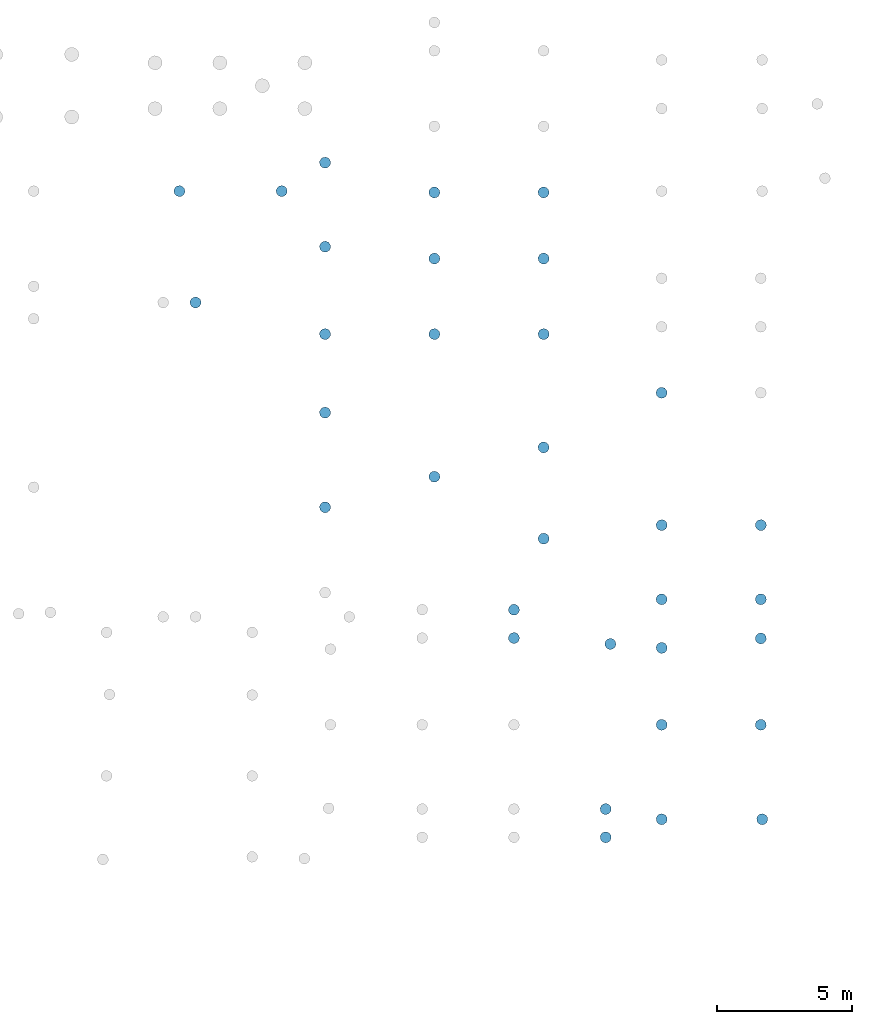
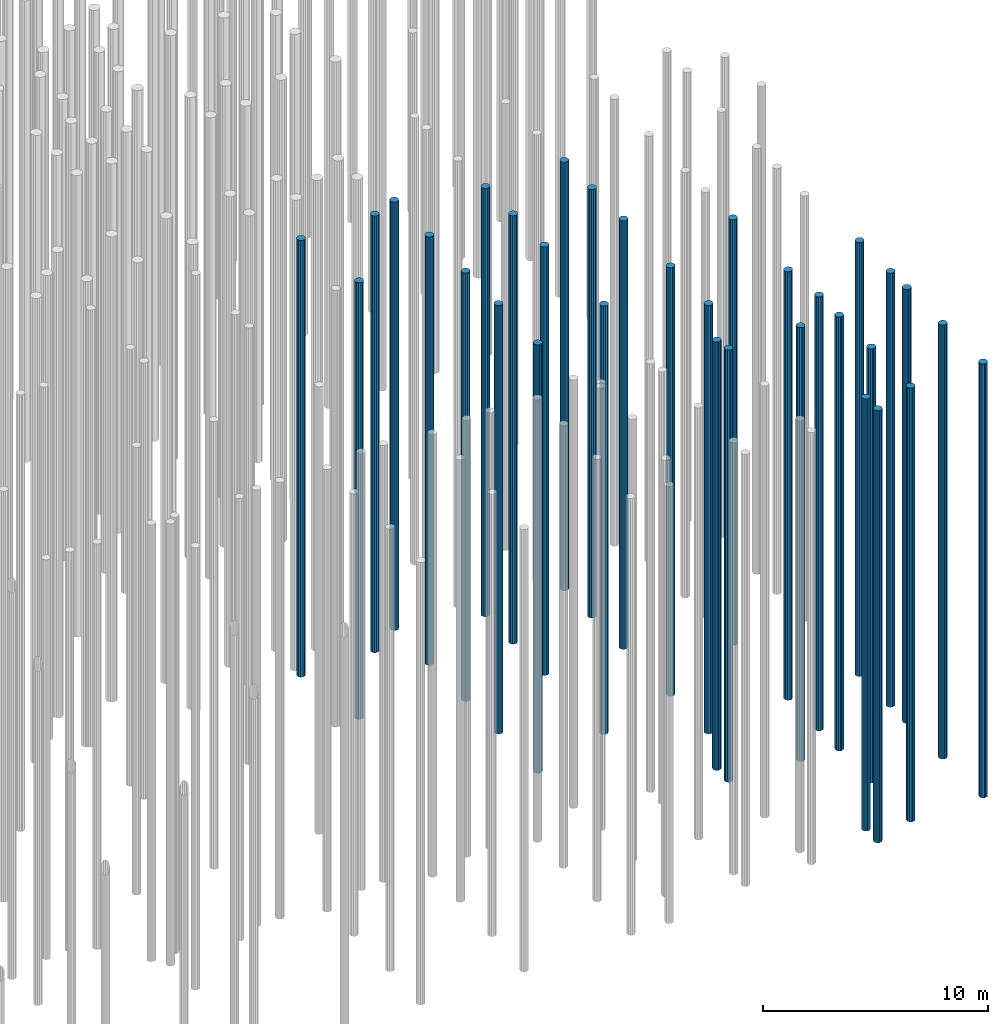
# One storey, part 13 of 20: 33 piles.
"""IFC2X3 building model written with IfcOpenShell, lengths in millimetres."""

from ifc_helpers import new_model, entity, si_unit, converted_unit, derived_unit, direction, frame, origin, place, context, subcontext, project, spatial, polyline, outline, extrude, material, element, save


model = new_model("IFC2X3")

# Units and contexts
model_context = context("Model", 3, precision=0.01, world=origin(), true_north=direction((6.12303176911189e-17, 1.0)))
body_context = subcontext(model_context, "Body", "Model", "MODEL_VIEW")
ifc_project = project(units=[si_unit("LENGTHUNIT", "METRE", prefix="MILLI"), si_unit("AREAUNIT", "SQUARE_METRE"), si_unit("VOLUMEUNIT", "CUBIC_METRE"), converted_unit("PLANEANGLEUNIT", "DEGREE", entity("IfcRatioMeasure", 0.0174532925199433), si_unit("PLANEANGLEUNIT", "RADIAN"), dimensions=[0, 0, 0, 0, 0, 0, 0]), si_unit("MASSUNIT", "GRAM", prefix="KILO"), derived_unit("MASSDENSITYUNIT", [(si_unit("MASSUNIT", "GRAM", prefix="KILO"), 1), (si_unit("LENGTHUNIT", "METRE"), -3)]), si_unit("TIMEUNIT", "SECOND"), si_unit("FREQUENCYUNIT", "HERTZ"), si_unit("THERMODYNAMICTEMPERATUREUNIT", "DEGREE_CELSIUS"), derived_unit("THERMALTRANSMITTANCEUNIT", [(si_unit("MASSUNIT", "GRAM", prefix="KILO"), 1), (si_unit("THERMODYNAMICTEMPERATUREUNIT", "KELVIN"), -1), (si_unit("TIMEUNIT", "SECOND"), -3)]), derived_unit("VOLUMETRICFLOWRATEUNIT", [(si_unit("LENGTHUNIT", "METRE"), 3), (si_unit("TIMEUNIT", "SECOND"), -1)]), si_unit("ELECTRICCURRENTUNIT", "AMPERE"), si_unit("ELECTRICVOLTAGEUNIT", "VOLT"), si_unit("POWERUNIT", "WATT"), si_unit("FORCEUNIT", "NEWTON", prefix="KILO"), si_unit("ILLUMINANCEUNIT", "LUX"), si_unit("LUMINOUSFLUXUNIT", "LUMEN"), si_unit("LUMINOUSINTENSITYUNIT", "CANDELA"), derived_unit("USERDEFINED", [(si_unit("MASSUNIT", "GRAM", prefix="KILO"), -1), (si_unit("LENGTHUNIT", "METRE"), -2), (si_unit("TIMEUNIT", "SECOND"), 3), (si_unit("LUMINOUSFLUXUNIT", "LUMEN"), 1)]), derived_unit("LINEARVELOCITYUNIT", [(si_unit("LENGTHUNIT", "METRE"), 1), (si_unit("TIMEUNIT", "SECOND"), -1)]), si_unit("PRESSUREUNIT", "PASCAL"), derived_unit("USERDEFINED", [(si_unit("LENGTHUNIT", "METRE"), -2), (si_unit("MASSUNIT", "GRAM", prefix="KILO"), 1), (si_unit("TIMEUNIT", "SECOND"), -2)])], contexts=[model_context])

# Site, building, storey
site_placement = place(None, origin())
site = spatial("IfcSite", under=ifc_project, at=site_placement, Name="Default", CompositionType="ELEMENT")
building_placement = place(site_placement, origin())
building = spatial("IfcBuilding", under=site, at=building_placement, Name="niet gebruiken", CompositionType="ELEMENT")
storey_placement = place(building_placement, frame((0.0, 0.0, -4000.0)))
storey = spatial("IfcBuildingStorey", under=building, at=storey_placement, Name="Level t.b.v. palenplan", CompositionType="ELEMENT", Elevation=-4000.0)

# Piles
ifc_material = material(Name="NLRS_f2_beton ihwg")
pile_1_placement = place(storey_placement, origin())
element("IfcPile", 1, at=pile_1_placement, inside=storey, material=ifc_material, Name="NLRS_17.12_SFO_TLB_funderingspaal grondverdringend_gen:Fundex_r410/500", ObjectType="NLRS_17.12_SFO_TLB_funderingspaal grondverdringend_gen:Fundex_r410/500", context=body_context, shape_type="SweptSolid", body=[
    extrude(outline(polyline([(-49.0597111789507, -199.043072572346), (49.0597111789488, -199.043072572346), (135.940144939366, -153.44470337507), (191.678329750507, -72.6940018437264), (203.5053191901, 24.7100194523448), (168.711692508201, 116.453273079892), (95.2682502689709, 181.518485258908), (49.0597111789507, 199.043072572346), (-49.0597111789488, 199.043072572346), (-135.940144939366, 153.44470337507), (-191.678329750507, 72.6940018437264), (-203.5053191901, -24.7100194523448), (-168.711692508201, -116.453273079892), (-95.2682502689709, -181.518485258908), (-49.0597111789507, -199.043072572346)])), frame((97200.0, 24976.0, -21100.0), z_axis=(0.0, 0.0, 1.0), x_axis=(0.239315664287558, -0.970941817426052, 0.0)), (0.0, 0.0, 1.0), 23720.0),
])
pile_2_placement = place(storey_placement, origin())
element("IfcPile", 2, at=pile_2_placement, inside=storey, material=ifc_material, Name="NLRS_17.12_SFO_TLB_funderingspaal grondverdringend_gen:Fundex_r410/500", ObjectType="NLRS_17.12_SFO_TLB_funderingspaal grondverdringend_gen:Fundex_r410/500", context=body_context, shape_type="SweptSolid", body=[
    extrude(outline(polyline([(-49.0597111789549, -199.043072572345), (49.0597111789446, -199.043072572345), (135.940144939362, -153.444703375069), (191.678329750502, -72.6940018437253), (203.505319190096, 24.7100194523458), (168.711692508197, 116.453273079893), (95.2682502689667, 181.518485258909), (49.0597111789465, 199.043072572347), (-49.059711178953, 199.043072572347), (-135.94014493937, 153.444703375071), (-191.678329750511, 72.6940018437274), (-203.505319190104, -24.7100194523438), (-168.711692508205, -116.453273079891), (-95.2682502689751, -181.518485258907), (-49.0597111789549, -199.043072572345)])), frame((97800.0, 20846.0, -21100.0), z_axis=(0.0, 0.0, 1.0), x_axis=(0.239315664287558, -0.970941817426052, 0.0)), (0.0, 0.0, 1.0), 23720.0),
])
pile_3_placement = place(storey_placement, origin())
element("IfcPile", 3, at=pile_3_placement, inside=storey, material=ifc_material, Name="NLRS_17.12_SFO_TLB_funderingspaal grondverdringend_gen:Fundex_r410/500", ObjectType="NLRS_17.12_SFO_TLB_funderingspaal grondverdringend_gen:Fundex_r410/500", context=body_context, shape_type="SweptSolid", body=[
    extrude(outline(polyline([(-49.0597111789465, -199.043072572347), (49.059711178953, -199.043072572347), (135.94014493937, -153.444703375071), (191.678329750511, -72.6940018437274), (203.505319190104, 24.7100194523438), (168.711692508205, 116.453273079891), (95.2682502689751, 181.518485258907), (49.0597111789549, 199.043072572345), (-49.0597111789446, 199.043072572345), (-135.940144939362, 153.444703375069), (-191.678329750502, 72.6940018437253), (-203.505319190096, -24.7100194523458), (-168.711692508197, -116.453273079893), (-95.2682502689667, -181.518485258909), (-49.0597111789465, -199.043072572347)])), frame((100990.0, 24976.0, -21100.0), z_axis=(0.0, 0.0, 1.0), x_axis=(0.239315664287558, -0.970941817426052, 0.0)), (0.0, 0.0, 1.0), 23720.0),
])
pile_4_placement = place(storey_placement, origin())
element("IfcPile", 4, at=pile_4_placement, inside=storey, material=ifc_material, Name="NLRS_17.12_SFO_TLB_funderingspaal grondverdringend_gen:Fundex_r410/500", ObjectType="NLRS_17.12_SFO_TLB_funderingspaal grondverdringend_gen:Fundex_r410/500", context=body_context, shape_type="SweptSolid", body=[
    extrude(outline(polyline([(-49.0597111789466, -199.043072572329), (49.059711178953, -199.043072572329), (135.94014493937, -153.444703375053), (191.678329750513, -72.6940018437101), (203.505319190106, 24.7100194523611), (168.711692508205, 116.453273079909), (95.2682502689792, 181.518485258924), (49.0597111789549, 199.043072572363), (-49.0597111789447, 199.043072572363), (-135.940144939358, 153.444703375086), (-191.678329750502, 72.6940018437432), (-203.505319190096, -24.710019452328), (-168.711692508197, -116.453273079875), (-95.2682502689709, -181.51848525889), (-49.0597111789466, -199.043072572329)])), frame((106650.0, 19676.0, -21100.0), z_axis=(0.0, 0.0, 1.0), x_axis=(0.239315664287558, -0.970941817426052, 0.0)), (0.0, 0.0, 1.0), 23270.0),
])
pile_5_placement = place(storey_placement, origin())
element("IfcPile", 5, at=pile_5_placement, inside=storey, material=ifc_material, Name="NLRS_17.12_SFO_TLB_funderingspaal grondverdringend_gen:Fundex_r410/500", ObjectType="NLRS_17.12_SFO_TLB_funderingspaal grondverdringend_gen:Fundex_r410/500", context=body_context, shape_type="SweptSolid", body=[
    extrude(outline(polyline([(-49.0597111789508, -199.043072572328), (49.0597111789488, -199.043072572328), (135.940144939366, -153.444703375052), (191.678329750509, -72.694001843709), (203.505319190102, 24.7100194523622), (168.711692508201, 116.45327307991), (95.268250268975, 181.518485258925), (49.0597111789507, 199.043072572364), (-49.0597111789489, 199.043072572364), (-135.940144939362, 153.444703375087), (-191.678329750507, 72.6940018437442), (-203.5053191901, -24.7100194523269), (-168.711692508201, -116.453273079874), (-95.2682502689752, -181.518485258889), (-49.0597111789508, -199.043072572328)])), frame((110700.0, 19676.0, -21100.0), z_axis=(0.0, 0.0, 1.0), x_axis=(0.239315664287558, -0.970941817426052, 0.0)), (0.0, 0.0, 1.0), 23270.0),
])
pile_6_placement = place(storey_placement, origin())
element("IfcPile", 6, at=pile_6_placement, inside=storey, material=ifc_material, Name="NLRS_17.12_SFO_TLB_funderingspaal grondverdringend_gen:Fundex_r410/500", ObjectType="NLRS_17.12_SFO_TLB_funderingspaal grondverdringend_gen:Fundex_r410/500", context=body_context, shape_type="SweptSolid", body=[
    extrude(outline(polyline([(-49.0597111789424, -199.04307257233), (49.0597111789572, -199.04307257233), (135.940144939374, -153.444703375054), (191.678329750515, -72.6940018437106), (203.505319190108, 24.7100194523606), (168.71169250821, 116.453273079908), (95.2682502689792, 181.518485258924), (49.0597111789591, 199.043072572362), (-49.0597111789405, 199.043072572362), (-135.940144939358, 153.444703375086), (-191.678329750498, 72.6940018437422), (-203.505319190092, -24.710019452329), (-168.711692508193, -116.453273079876), (-95.2682502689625, -181.518485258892), (-49.0597111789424, -199.04307257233)])), frame((106650.0, 22476.0, -21100.0), z_axis=(0.0, 0.0, 1.0), x_axis=(0.239315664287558, -0.970941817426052, 0.0)), (0.0, 0.0, 1.0), 23270.0),
])
pile_7_placement = place(storey_placement, origin())
element("IfcPile", 7, at=pile_7_placement, inside=storey, material=ifc_material, Name="NLRS_17.12_SFO_TLB_funderingspaal grondverdringend_gen:Fundex_r410/500", ObjectType="NLRS_17.12_SFO_TLB_funderingspaal grondverdringend_gen:Fundex_r410/500", context=body_context, shape_type="SweptSolid", body=[
    extrude(outline(polyline([(-49.0597111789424, -199.04307257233), (49.0597111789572, -199.04307257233), (135.940144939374, -153.444703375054), (191.678329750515, -72.6940018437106), (203.505319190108, 24.7100194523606), (168.71169250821, 116.453273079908), (95.2682502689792, 181.518485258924), (49.0597111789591, 199.043072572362), (-49.0597111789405, 199.043072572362), (-135.940144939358, 153.444703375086), (-191.678329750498, 72.6940018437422), (-203.505319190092, -24.710019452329), (-168.711692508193, -116.453273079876), (-95.2682502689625, -181.518485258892), (-49.0597111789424, -199.04307257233)])), frame((110700.0, 22476.0, -21100.0), z_axis=(0.0, 0.0, 1.0), x_axis=(0.239315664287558, -0.970941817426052, 0.0)), (0.0, 0.0, 1.0), 23270.0),
])
pile_8_placement = place(storey_placement, origin())
element("IfcPile", 8, at=pile_8_placement, inside=storey, material=ifc_material, Name="NLRS_17.12_SFO_TLB_funderingspaal grondverdringend_gen:Fundex_r410/500", ObjectType="NLRS_17.12_SFO_TLB_funderingspaal grondverdringend_gen:Fundex_r410/500", context=body_context, shape_type="SweptSolid", body=[
    extrude(outline(polyline([(-49.0597111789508, -199.043072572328), (49.0597111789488, -199.043072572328), (135.940144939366, -153.444703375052), (191.678329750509, -72.694001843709), (203.505319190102, 24.7100194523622), (168.711692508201, 116.45327307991), (95.268250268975, 181.518485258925), (49.0597111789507, 199.043072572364), (-49.0597111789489, 199.043072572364), (-135.940144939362, 153.444703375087), (-191.678329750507, 72.6940018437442), (-203.5053191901, -24.7100194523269), (-168.711692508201, -116.453273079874), (-95.2682502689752, -181.518485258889), (-49.0597111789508, -199.043072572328)])), frame((102600.0, 19676.0, -21100.0), z_axis=(0.0, 0.0, 1.0), x_axis=(0.239315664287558, -0.970941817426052, 0.0)), (0.0, 0.0, 1.0), 23270.0),
])
pile_9_placement = place(storey_placement, origin())
element("IfcPile", 9, at=pile_9_placement, inside=storey, material=ifc_material, Name="NLRS_17.12_SFO_TLB_funderingspaal grondverdringend_gen:Fundex_r410/500", ObjectType="NLRS_17.12_SFO_TLB_funderingspaal grondverdringend_gen:Fundex_r410/500", context=body_context, shape_type="SweptSolid", body=[
    extrude(outline(polyline([(-49.0597111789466, -199.043072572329), (49.059711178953, -199.043072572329), (135.940144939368, -153.444703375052), (191.678329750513, -72.6940018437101), (203.505319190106, 24.7100194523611), (168.711692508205, 116.453273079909), (95.2682502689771, 181.518485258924), (49.0597111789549, 199.043072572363), (-49.0597111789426, 199.043072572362), (-135.94014493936, 153.444703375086), (-191.678329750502, 72.6940018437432), (-203.505319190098, -24.7100194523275), (-168.711692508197, -116.453273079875), (-95.2682502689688, -181.518485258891), (-49.0597111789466, -199.043072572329)])), frame((106650.0, 14391.0, -21100.0), z_axis=(0.0, 0.0, 1.0), x_axis=(0.239315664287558, -0.970941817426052, 0.0)), (0.0, 0.0, 1.0), 23270.0),
])
pile_10_placement = place(storey_placement, origin())
element("IfcPile", 10, at=pile_10_placement, inside=storey, material=ifc_material, Name="NLRS_17.12_SFO_TLB_funderingspaal grondverdringend_gen:Fundex_r410/500", ObjectType="NLRS_17.12_SFO_TLB_funderingspaal grondverdringend_gen:Fundex_r410/500", context=body_context, shape_type="SweptSolid", body=[
    extrude(outline(polyline([(-49.0597111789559, -199.043072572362), (49.0597111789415, -199.043072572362), (135.940144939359, -153.444703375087), (191.678329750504, -72.6940018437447), (203.505319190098, 24.7100194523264), (168.711692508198, 116.453273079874), (95.2682502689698, 181.51848525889), (49.0597111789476, 199.043072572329), (-49.0597111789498, 199.043072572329), (-135.940144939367, 153.444703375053), (-191.67832975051, 72.6940018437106), (-203.505319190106, -24.71001945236), (-168.711692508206, -116.453273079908), (-95.2682502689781, -181.518485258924), (-49.0597111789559, -199.043072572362)])), frame((110700.0, 15476.0, -21100.0), z_axis=(0.0, 0.0, 1.0), x_axis=(0.239315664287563, -0.970941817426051, 0.0)), (0.0, 0.0, 1.0), 23270.0),
])
pile_11_placement = place(storey_placement, origin())
element("IfcPile", 11, at=pile_11_placement, inside=storey, material=ifc_material, Name="NLRS_17.12_SFO_TLB_funderingspaal grondverdringend_gen:Fundex_r410/500", ObjectType="NLRS_17.12_SFO_TLB_funderingspaal grondverdringend_gen:Fundex_r410/500", context=body_context, shape_type="SweptSolid", body=[
    extrude(outline(polyline([(-49.0597111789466, -199.043072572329), (49.059711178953, -199.043072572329), (135.940144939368, -153.444703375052), (191.678329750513, -72.6940018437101), (203.505319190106, 24.7100194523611), (168.711692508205, 116.453273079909), (95.2682502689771, 181.518485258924), (49.0597111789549, 199.043072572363), (-49.0597111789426, 199.043072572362), (-135.94014493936, 153.444703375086), (-191.678329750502, 72.6940018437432), (-203.505319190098, -24.7100194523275), (-168.711692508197, -116.453273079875), (-95.2682502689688, -181.518485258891), (-49.0597111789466, -199.043072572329)])), frame((102600.0, 16766.0, -21100.0), z_axis=(0.0, 0.0, 1.0), x_axis=(0.239315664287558, -0.970941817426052, 0.0)), (0.0, 0.0, 1.0), 23270.0),
])
pile_12_placement = place(storey_placement, origin())
element("IfcPile", 12, at=pile_12_placement, inside=storey, material=ifc_material, Name="NLRS_17.12_SFO_TLB_funderingspaal grondverdringend_gen:Fundex_r410/500", ObjectType="NLRS_17.12_SFO_TLB_funderingspaal grondverdringend_gen:Fundex_r410/500", context=body_context, shape_type="SweptSolid", body=[
    extrude(outline(polyline([(-49.0597111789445, -199.043072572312), (49.059711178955, -199.043072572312), (135.94014493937, -153.444703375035), (191.678329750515, -72.6940018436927), (203.505319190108, 24.7100194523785), (168.711692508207, 116.453273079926), (95.2682502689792, 181.518485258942), (49.0597111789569, 199.04307257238), (-49.0597111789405, 199.04307257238), (-135.940144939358, 153.444703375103), (-191.6783297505, 72.6940018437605), (-203.505319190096, -24.7100194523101), (-168.711692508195, -116.453273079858), (-95.2682502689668, -181.518485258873), (-49.0597111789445, -199.043072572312)])), frame((115075.0, 17500.0, -21100.0), z_axis=(0.0, 0.0, 1.0), x_axis=(0.239315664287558, -0.970941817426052, 0.0)), (0.0, 0.0, 1.0), 23120.0),
])
pile_13_placement = place(storey_placement, origin())
element("IfcPile", 13, at=pile_13_placement, inside=storey, material=ifc_material, Name="NLRS_17.12_SFO_TLB_funderingspaal grondverdringend_gen:Fundex_r410/500", ObjectType="NLRS_17.12_SFO_TLB_funderingspaal grondverdringend_gen:Fundex_r410/500", context=body_context, shape_type="SweptSolid", body=[
    extrude(outline(polyline([(-49.0597111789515, -199.04307257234), (49.0597111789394, -199.04307257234), (135.940144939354, -153.444703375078), (191.678329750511, -72.6940018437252), (203.505319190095, 24.7100194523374), (168.711692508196, 116.453273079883), (95.2682502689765, 181.518485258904), (49.0597111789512, 199.043072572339), (-49.0597111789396, 199.043072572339), (-135.940144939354, 153.444703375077), (-191.678329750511, 72.6940018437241), (-203.505319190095, -24.7100194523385), (-168.711692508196, -116.453273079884), (-95.2682502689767, -181.518485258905), (-49.0597111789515, -199.04307257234)])), frame((109600.000370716, 9461.0, -21100.0), z_axis=(0.0, 0.0, 1.0), x_axis=(-0.970941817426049, -0.239315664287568, 0.0)), (0.0, 0.0, 1.0), 23270.0),
])
pile_14_placement = place(storey_placement, origin())
element("IfcPile", 14, at=pile_14_placement, inside=storey, material=ifc_material, Name="NLRS_17.12_SFO_TLB_funderingspaal grondverdringend_gen:Fundex_r410/500", ObjectType="NLRS_17.12_SFO_TLB_funderingspaal grondverdringend_gen:Fundex_r410/500", context=body_context, shape_type="SweptSolid", body=[
    extrude(outline(polyline([(-49.0597111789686, -199.043072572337), (49.0597111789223, -199.043072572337), (135.940144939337, -153.444703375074), (191.678329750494, -72.6940018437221), (203.505319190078, 24.7100194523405), (168.711692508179, 116.453273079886), (95.2682502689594, 181.518485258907), (49.0597111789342, 199.043072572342), (-49.0597111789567, 199.043072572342), (-135.940144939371, 153.44470337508), (-191.678329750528, 72.6940018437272), (-203.505319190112, -24.7100194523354), (-168.711692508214, -116.453273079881), (-95.2682502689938, -181.518485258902), (-49.0597111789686, -199.043072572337)])), frame((109600.000370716, 8411.0, -21100.0), z_axis=(0.0, 0.0, 1.0), x_axis=(-0.970941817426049, -0.239315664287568, 0.0)), (0.0, 0.0, 1.0), 23470.0),
])
pile_15_placement = place(storey_placement, origin())
element("IfcPile", 15, at=pile_15_placement, inside=storey, material=ifc_material, Name="NLRS_17.12_SFO_TLB_funderingspaal grondverdringend_gen:Fundex_r410/500", ObjectType="NLRS_17.12_SFO_TLB_funderingspaal grondverdringend_gen:Fundex_r410/500", context=body_context, shape_type="SweptSolid", body=[
    extrude(outline(polyline([(-49.0597111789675, -199.043072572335), (49.0597111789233, -199.043072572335), (135.940144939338, -153.444703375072), (191.678329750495, -72.6940018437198), (203.505319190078, 24.7100194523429), (168.711692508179, 116.453273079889), (95.2682502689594, 181.518485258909), (49.059711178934, 199.043072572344), (-49.0597111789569, 199.043072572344), (-135.940144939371, 153.444703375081), (-191.678329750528, 72.6940018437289), (-203.505319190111, -24.710019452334), (-168.711692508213, -116.45327307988), (-95.268250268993, -181.518485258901), (-49.0597111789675, -199.043072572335)])), frame((113000.000370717, 2075.0, -21100.0), z_axis=(0.0, 0.0, 1.0), x_axis=(-0.97094181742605, -0.239315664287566, 0.0)), (0.0, 0.0, 1.0), 23470.0),
])
pile_16_placement = place(storey_placement, origin())
element("IfcPile", 16, at=pile_16_placement, inside=storey, material=ifc_material, Name="NLRS_17.12_SFO_TLB_funderingspaal grondverdringend_gen:Fundex_r410/500", ObjectType="NLRS_17.12_SFO_TLB_funderingspaal grondverdringend_gen:Fundex_r410/500", context=body_context, shape_type="SweptSolid", body=[
    extrude(outline(polyline([(-49.0597111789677, -199.043072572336), (49.0597111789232, -199.043072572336), (135.940144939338, -153.444703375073), (191.678329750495, -72.6940018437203), (203.505319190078, 24.7100194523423), (168.711692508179, 116.453273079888), (95.2682502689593, 181.518485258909), (49.0597111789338, 199.043072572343), (-49.059711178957, 199.043072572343), (-135.940144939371, 153.44470337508), (-191.678329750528, 72.6940018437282), (-203.505319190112, -24.7100194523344), (-168.711692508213, -116.45327307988), (-95.2682502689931, -181.518485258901), (-49.0597111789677, -199.043072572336)])), frame((113000.000370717, 1025.0, -21100.0), z_axis=(0.0, 0.0, 1.0), x_axis=(-0.97094181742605, -0.239315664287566, 0.0)), (0.0, 0.0, 1.0), 23470.0),
])
pile_17_placement = place(storey_placement, origin())
element("IfcPile", 17, at=pile_17_placement, inside=storey, material=ifc_material, Name="NLRS_17.12_SFO_TLB_funderingspaal grondverdringend_gen:Fundex_r410/500", ObjectType="NLRS_17.12_SFO_TLB_funderingspaal grondverdringend_gen:Fundex_r410/500", context=body_context, shape_type="SweptSolid", body=[
    extrude(outline(polyline([(-49.0597111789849, -199.043072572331), (49.059711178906, -199.043072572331), (135.940144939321, -153.444703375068), (191.678329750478, -72.6940018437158), (203.505319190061, 24.7100194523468), (168.711692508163, 116.453273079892), (95.2682502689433, 181.518485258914), (49.0597111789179, 199.043072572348), (-49.059711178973, 199.043072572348), (-135.940144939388, 153.444703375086), (-191.678329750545, 72.6940018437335), (-203.505319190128, -24.7100194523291), (-168.71169250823, -116.453273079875), (-95.2682502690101, -181.518485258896), (-49.0597111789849, -199.043072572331)])), frame((113175.000370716, 8191.0, -21100.0), z_axis=(0.0, 0.0, 1.0), x_axis=(-0.970941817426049, -0.239315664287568, 0.0)), (0.0, 0.0, 1.0), 23570.0),
])
pile_18_placement = place(storey_placement, origin())
element("IfcPile", 18, at=pile_18_placement, inside=storey, material=ifc_material, Name="NLRS_17.12_SFO_TLB_funderingspaal grondverdringend_gen:Fundex_r410/500", ObjectType="NLRS_17.12_SFO_TLB_funderingspaal grondverdringend_gen:Fundex_r410/500", context=body_context, shape_type="SweptSolid", body=[
    extrude(outline(polyline([(-49.0597111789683, -199.043072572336), (49.0597111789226, -199.043072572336), (135.940144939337, -153.444703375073), (191.678329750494, -72.6940018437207), (203.505319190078, 24.7100194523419), (168.711692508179, 116.453273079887), (95.2682502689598, 181.518485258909), (49.0597111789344, 199.043072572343), (-49.0597111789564, 199.043072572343), (-135.940144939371, 153.444703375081), (-191.678329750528, 72.6940018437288), (-203.505319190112, -24.7100194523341), (-168.711692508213, -116.45327307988), (-95.2682502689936, -181.518485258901), (-49.0597111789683, -199.043072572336)])), frame((115075.0, 1695.0, -21100.0), z_axis=(0.0, 0.0, 1.0), x_axis=(-0.970941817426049, -0.239315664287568, 0.0)), (0.0, 0.0, 1.0), 23570.0),
])
pile_19_placement = place(storey_placement, origin())
element("IfcPile", 19, at=pile_19_placement, inside=storey, material=ifc_material, Name="NLRS_17.12_SFO_TLB_funderingspaal grondverdringend_gen:Fundex_r410/500", ObjectType="NLRS_17.12_SFO_TLB_funderingspaal grondverdringend_gen:Fundex_r410/500", context=body_context, shape_type="SweptSolid", body=[
    extrude(outline(polyline([(-49.0597111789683, -199.043072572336), (49.0597111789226, -199.043072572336), (135.940144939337, -153.444703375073), (191.678329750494, -72.694001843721), (203.505319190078, 24.7100194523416), (168.711692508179, 116.453273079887), (95.2682502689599, 181.518485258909), (49.0597111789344, 199.043072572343), (-49.0597111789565, 199.043072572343), (-135.940144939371, 153.444703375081), (-191.678329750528, 72.6940018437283), (-203.505319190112, -24.7100194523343), (-168.711692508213, -116.45327307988), (-95.2682502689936, -181.518485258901), (-49.0597111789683, -199.043072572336)])), frame((115075.0, 8046.0, -21100.0), z_axis=(0.0, 0.0, 1.0), x_axis=(-0.970941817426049, -0.239315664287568, 0.0)), (0.0, 0.0, 1.0), 23570.0),
])
pile_20_placement = place(storey_placement, origin())
element("IfcPile", 20, at=pile_20_placement, inside=storey, material=ifc_material, Name="NLRS_17.12_SFO_TLB_funderingspaal grondverdringend_gen:Fundex_r410/500", ObjectType="NLRS_17.12_SFO_TLB_funderingspaal grondverdringend_gen:Fundex_r410/500", context=body_context, shape_type="SweptSolid", body=[
    extrude(outline(polyline([(-49.0597111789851, -199.043072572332), (49.0597111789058, -199.043072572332), (135.94014493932, -153.444703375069), (191.678329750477, -72.6940018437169), (203.505319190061, 24.7100194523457), (168.711692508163, 116.453273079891), (95.2682502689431, 181.518485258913), (49.0597111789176, 199.043072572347), (-49.0597111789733, 199.043072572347), (-135.940144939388, 153.444703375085), (-191.678329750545, 72.6940018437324), (-203.505319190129, -24.7100194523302), (-168.71169250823, -116.453273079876), (-95.2682502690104, -181.518485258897), (-49.0597111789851, -199.043072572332)])), frame((118750.0, 5196.0, -21100.0), z_axis=(0.0, 0.0, 1.0), x_axis=(-0.970941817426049, -0.239315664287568, 0.0)), (0.0, 0.0, 1.0), 23570.0),
])
pile_21_placement = place(storey_placement, origin())
element("IfcPile", 21, at=pile_21_placement, inside=storey, material=ifc_material, Name="NLRS_17.12_SFO_TLB_funderingspaal grondverdringend_gen:Fundex_r410/500", ObjectType="NLRS_17.12_SFO_TLB_funderingspaal grondverdringend_gen:Fundex_r410/500", context=body_context, shape_type="SweptSolid", body=[
    extrude(outline(polyline([(-49.0597111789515, -199.04307257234), (49.0597111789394, -199.04307257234), (135.940144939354, -153.444703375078), (191.678329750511, -72.6940018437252), (203.505319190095, 24.7100194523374), (168.711692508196, 116.453273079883), (95.2682502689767, 181.518485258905), (49.0597111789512, 199.043072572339), (-49.0597111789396, 199.043072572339), (-135.940144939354, 153.444703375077), (-191.678329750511, 72.6940018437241), (-203.505319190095, -24.7100194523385), (-168.711692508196, -116.453273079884), (-95.2682502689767, -181.518485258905), (-49.0597111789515, -199.04307257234)])), frame((115075.0, 5196.0, -21100.0), z_axis=(0.0, 0.0, 1.0), x_axis=(-0.970941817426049, -0.239315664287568, 0.0)), (0.0, 0.0, 1.0), 23570.0),
])
pile_22_placement = place(storey_placement, origin())
element("IfcPile", 22, at=pile_22_placement, inside=storey, material=ifc_material, Name="NLRS_17.12_SFO_TLB_funderingspaal grondverdringend_gen:Fundex_r410/500", ObjectType="NLRS_17.12_SFO_TLB_funderingspaal grondverdringend_gen:Fundex_r410/500", context=body_context, shape_type="SweptSolid", body=[
    extrude(outline(polyline([(-49.0597111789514, -199.04307257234), (49.0597111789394, -199.04307257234), (135.940144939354, -153.444703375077), (191.678329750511, -72.6940018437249), (203.505319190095, 24.7100194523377), (168.711692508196, 116.453273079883), (95.2682502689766, 181.518485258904), (49.0597111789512, 199.043072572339), (-49.0597111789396, 199.043072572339), (-135.940144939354, 153.444703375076), (-191.678329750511, 72.6940018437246), (-203.505319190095, -24.7100194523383), (-168.711692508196, -116.453273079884), (-95.2682502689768, -181.518485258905), (-49.0597111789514, -199.04307257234)])), frame((118800.0, 1695.0, -21100.0), z_axis=(0.0, 0.0, 1.0), x_axis=(-0.970941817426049, -0.239315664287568, 0.0)), (0.0, 0.0, 1.0), 23570.0),
])
pile_23_placement = place(storey_placement, origin())
element("IfcPile", 23, at=pile_23_placement, inside=storey, material=ifc_material, Name="NLRS_17.12_SFO_TLB_funderingspaal grondverdringend_gen:Fundex_r410/500", ObjectType="NLRS_17.12_SFO_TLB_funderingspaal grondverdringend_gen:Fundex_r410/500", context=body_context, shape_type="SweptSolid", body=[
    extrude(outline(polyline([(-49.0597111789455, -199.043072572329), (49.0597111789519, -199.043072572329), (135.940144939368, -153.444703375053), (191.678329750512, -72.6940018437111), (203.505319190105, 24.7100194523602), (168.711692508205, 116.453273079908), (95.268250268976, 181.518485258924), (49.0597111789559, 199.043072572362), (-49.0597111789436, 199.043072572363), (-135.940144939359, 153.444703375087), (-191.678329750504, 72.6940018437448), (-203.505319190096, -24.7100194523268), (-168.711692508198, -116.453273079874), (-95.2682502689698, -181.51848525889), (-49.0597111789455, -199.043072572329)])), frame((115075.0, 9846.0, -21100.0), z_axis=(0.0, 0.0, 1.0), x_axis=(0.239315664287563, -0.970941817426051, 0.0)), (0.0, 0.0, 1.0), 23570.0),
])
pile_24_placement = place(storey_placement, origin())
element("IfcPile", 24, at=pile_24_placement, inside=storey, material=ifc_material, Name="NLRS_17.12_SFO_TLB_funderingspaal grondverdringend_gen:Fundex_r410/500", ObjectType="NLRS_17.12_SFO_TLB_funderingspaal grondverdringend_gen:Fundex_r410/500", context=body_context, shape_type="SweptSolid", body=[
    extrude(outline(polyline([(-49.0597111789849, -199.043072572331), (49.059711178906, -199.043072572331), (135.940144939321, -153.444703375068), (191.678329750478, -72.6940018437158), (203.505319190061, 24.7100194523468), (168.711692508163, 116.453273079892), (95.2682502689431, 181.518485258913), (49.0597111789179, 199.043072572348), (-49.059711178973, 199.043072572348), (-135.940144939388, 153.444703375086), (-191.678329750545, 72.6940018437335), (-203.505319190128, -24.7100194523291), (-168.71169250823, -116.453273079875), (-95.2682502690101, -181.518485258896), (-49.0597111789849, -199.043072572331)])), frame((118750.0, 8396.0, -21100.0), z_axis=(0.0, 0.0, 1.0), x_axis=(-0.970941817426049, -0.239315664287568, 0.0)), (0.0, 0.0, 1.0), 23570.0),
])
pile_25_placement = place(storey_placement, origin())
element("IfcPile", 25, at=pile_25_placement, inside=storey, material=ifc_material, Name="NLRS_17.12_SFO_TLB_funderingspaal grondverdringend_gen:Fundex_r410/500", ObjectType="NLRS_17.12_SFO_TLB_funderingspaal grondverdringend_gen:Fundex_r410/500", context=body_context, shape_type="SweptSolid", body=[
    extrude(outline(polyline([(-49.0597111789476, -199.043072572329), (49.0597111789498, -199.043072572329), (135.940144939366, -153.444703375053), (191.67832975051, -72.6940018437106), (203.505319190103, 24.7100194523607), (168.711692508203, 116.453273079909), (95.2682502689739, 181.518485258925), (49.0597111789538, 199.043072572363), (-49.0597111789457, 199.043072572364), (-135.940144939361, 153.444703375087), (-191.678329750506, 72.6940018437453), (-203.505319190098, -24.7100194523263), (-168.7116925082, -116.453273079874), (-95.2682502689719, -181.51848525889), (-49.0597111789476, -199.043072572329)])), frame((118750.0, 9846.0, -21100.0), z_axis=(0.0, 0.0, 1.0), x_axis=(0.239315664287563, -0.970941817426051, 0.0)), (0.0, 0.0, 1.0), 23570.0),
])
pile_26_placement = place(storey_placement, origin())
element("IfcPile", 26, at=pile_26_placement, inside=storey, material=ifc_material, Name="NLRS_17.12_SFO_TLB_funderingspaal grondverdringend_gen:Fundex_r410/500", ObjectType="NLRS_17.12_SFO_TLB_funderingspaal grondverdringend_gen:Fundex_r410/500", context=body_context, shape_type="SweptSolid", body=[
    extrude(outline(polyline([(-49.0597111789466, -199.043072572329), (49.059711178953, -199.043072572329), (135.94014493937, -153.444703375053), (191.678329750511, -72.6940018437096), (203.505319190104, 24.7100194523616), (168.711692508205, 116.453273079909), (95.268250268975, 181.518485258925), (49.0597111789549, 199.043072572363), (-49.0597111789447, 199.043072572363), (-135.940144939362, 153.444703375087), (-191.678329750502, 72.6940018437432), (-203.505319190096, -24.710019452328), (-168.711692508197, -116.453273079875), (-95.2682502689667, -181.518485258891), (-49.0597111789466, -199.043072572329)])), frame((102600.0, 26031.0, -21100.0), z_axis=(0.0, 0.0, 1.0), x_axis=(0.239315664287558, -0.970941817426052, 0.0)), (0.0, 0.0, 1.0), 23270.0),
])
pile_27_placement = place(storey_placement, origin())
element("IfcPile", 27, at=pile_27_placement, inside=storey, material=ifc_material, Name="NLRS_17.12_SFO_TLB_funderingspaal grondverdringend_gen:Fundex_r410/500", ObjectType="NLRS_17.12_SFO_TLB_funderingspaal grondverdringend_gen:Fundex_r410/500", context=body_context, shape_type="SweptSolid", body=[
    extrude(outline(polyline([(-49.0597111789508, -199.043072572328), (49.0597111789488, -199.043072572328), (135.940144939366, -153.444703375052), (191.678329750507, -72.6940018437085), (203.5053191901, 24.7100194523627), (168.711692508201, 116.45327307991), (95.2682502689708, 181.518485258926), (49.0597111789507, 199.043072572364), (-49.0597111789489, 199.043072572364), (-135.940144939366, 153.444703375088), (-191.678329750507, 72.6940018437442), (-203.5053191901, -24.7100194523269), (-168.711692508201, -116.453273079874), (-95.2682502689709, -181.51848525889), (-49.0597111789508, -199.043072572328)])), frame((102600.0, 22916.0, -21100.0), z_axis=(0.0, 0.0, 1.0), x_axis=(0.239315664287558, -0.970941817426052, 0.0)), (0.0, 0.0, 1.0), 23270.0),
])
pile_28_placement = place(storey_placement, origin())
element("IfcPile", 28, at=pile_28_placement, inside=storey, material=ifc_material, Name="NLRS_17.12_SFO_TLB_funderingspaal grondverdringend_gen:Fundex_r410/500", ObjectType="NLRS_17.12_SFO_TLB_funderingspaal grondverdringend_gen:Fundex_r410/500", context=body_context, shape_type="SweptSolid", body=[
    extrude(outline(polyline([(-49.0597111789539, -199.043072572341), (49.0597111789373, -199.043072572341), (135.940144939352, -153.444703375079), (191.67832975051, -72.6940018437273), (203.505319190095, 24.7100194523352), (168.711692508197, 116.453273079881), (95.2682502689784, 181.518485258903), (49.0597111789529, 199.043072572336), (-49.0597111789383, 199.043072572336), (-135.940144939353, 153.444703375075), (-191.678329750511, 72.6940018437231), (-203.505319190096, -24.7100194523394), (-168.711692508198, -116.453273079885), (-95.2682502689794, -181.518485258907), (-49.0597111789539, -199.043072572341)])), frame((102600.0, 13256.0, -21100.0), z_axis=(0.0, 0.0, 1.0), x_axis=(-0.970941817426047, -0.239315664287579, 0.0)), (0.0, 0.0, 1.0), 23270.0),
])
pile_29_placement = place(storey_placement, origin())
element("IfcPile", 29, at=pile_29_placement, inside=storey, material=ifc_material, Name="NLRS_17.12_SFO_TLB_funderingspaal grondverdringend_gen:Fundex_r410/500", ObjectType="NLRS_17.12_SFO_TLB_funderingspaal grondverdringend_gen:Fundex_r410/500", context=body_context, shape_type="SweptSolid", body=[
    extrude(outline(polyline([(-49.0597111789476, -199.043072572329), (49.0597111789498, -199.043072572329), (135.940144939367, -153.444703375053), (191.678329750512, -72.6940018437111), (203.505319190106, 24.71001945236), (168.711692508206, 116.453273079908), (95.2682502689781, 181.518485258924), (49.0597111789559, 199.043072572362), (-49.0597111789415, 199.043072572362), (-135.940144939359, 153.444703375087), (-191.678329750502, 72.6940018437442), (-203.505319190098, -24.7100194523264), (-168.711692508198, -116.453273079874), (-95.2682502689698, -181.51848525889), (-49.0597111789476, -199.043072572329)])), frame((115075.0, 12595.0, -21100.0), z_axis=(0.0, 0.0, 1.0), x_axis=(0.239315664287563, -0.970941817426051, 0.0)), (0.0, 0.0, 1.0), 23270.0),
])
pile_30_placement = place(storey_placement, origin())
element("IfcPile", 30, at=pile_30_placement, inside=storey, material=ifc_material, Name="NLRS_17.12_SFO_TLB_funderingspaal grondverdringend_gen:Fundex_r410/500", ObjectType="NLRS_17.12_SFO_TLB_funderingspaal grondverdringend_gen:Fundex_r410/500", context=body_context, shape_type="SweptSolid", body=[
    extrude(outline(polyline([(-49.0597111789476, -199.043072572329), (49.0597111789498, -199.043072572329), (135.940144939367, -153.444703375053), (191.678329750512, -72.6940018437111), (203.505319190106, 24.71001945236), (168.711692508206, 116.453273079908), (95.2682502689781, 181.518485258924), (49.0597111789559, 199.043072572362), (-49.0597111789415, 199.043072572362), (-135.940144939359, 153.444703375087), (-191.678329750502, 72.6940018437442), (-203.505319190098, -24.7100194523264), (-168.711692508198, -116.453273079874), (-95.2682502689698, -181.51848525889), (-49.0597111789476, -199.043072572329)])), frame((118750.0, 12596.0, -21100.0), z_axis=(0.0, 0.0, 1.0), x_axis=(0.239315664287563, -0.970941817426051, 0.0)), (0.0, 0.0, 1.0), 23570.0),
])
pile_31_placement = place(storey_placement, origin())
element("IfcPile", 31, at=pile_31_placement, inside=storey, material=ifc_material, Name="NLRS_17.12_SFO_TLB_funderingspaal grondverdringend_gen:Fundex_r410/500", ObjectType="NLRS_17.12_SFO_TLB_funderingspaal grondverdringend_gen:Fundex_r410/500", context=body_context, shape_type="SweptSolid", body=[
    extrude(outline(polyline([(-49.0597111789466, -199.043072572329), (49.059711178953, -199.043072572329), (135.940144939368, -153.444703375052), (191.678329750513, -72.6940018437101), (203.505319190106, 24.7100194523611), (168.711692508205, 116.453273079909), (95.2682502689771, 181.518485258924), (49.0597111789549, 199.043072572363), (-49.0597111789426, 199.043072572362), (-135.94014493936, 153.444703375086), (-191.678329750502, 72.6940018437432), (-203.505319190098, -24.7100194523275), (-168.711692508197, -116.453273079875), (-95.2682502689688, -181.518485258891), (-49.0597111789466, -199.043072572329)])), frame((110700.0, 12096.0, -21100.0), z_axis=(0.0, 0.0, 1.0), x_axis=(0.239315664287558, -0.970941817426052, 0.0)), (0.0, 0.0, 1.0), 23270.0),
])
pile_32_placement = place(storey_placement, origin())
element("IfcPile", 32, at=pile_32_placement, inside=storey, material=ifc_material, Name="NLRS_17.12_SFO_TLB_funderingspaal grondverdringend_gen:Fundex_r410/500", ObjectType="NLRS_17.12_SFO_TLB_funderingspaal grondverdringend_gen:Fundex_r410/500", context=body_context, shape_type="SweptSolid", body=[
    extrude(outline(polyline([(-49.0597111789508, -199.043072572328), (49.0597111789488, -199.043072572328), (135.940144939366, -153.444703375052), (191.678329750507, -72.6940018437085), (203.5053191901, 24.7100194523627), (168.711692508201, 116.45327307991), (95.2682502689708, 181.518485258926), (49.0597111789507, 199.043072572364), (-49.0597111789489, 199.043072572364), (-135.940144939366, 153.444703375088), (-191.678329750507, 72.6940018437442), (-203.5053191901, -24.7100194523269), (-168.711692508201, -116.453273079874), (-95.2682502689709, -181.51848525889), (-49.0597111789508, -199.043072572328)])), frame((106650.0, 24926.0, -21100.0), z_axis=(0.0, 0.0, 1.0), x_axis=(0.239315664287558, -0.970941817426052, 0.0)), (0.0, 0.0, 1.0), 23270.0),
])
pile_33_placement = place(storey_placement, origin())
element("IfcPile", 33, at=pile_33_placement, inside=storey, material=ifc_material, Name="NLRS_17.12_SFO_TLB_funderingspaal grondverdringend_gen:Fundex_r410/500", ObjectType="NLRS_17.12_SFO_TLB_funderingspaal grondverdringend_gen:Fundex_r410/500", context=body_context, shape_type="SweptSolid", body=[
    extrude(outline(polyline([(-49.0597111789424, -199.04307257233), (49.0597111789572, -199.04307257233), (135.940144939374, -153.444703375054), (191.678329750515, -72.6940018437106), (203.505319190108, 24.7100194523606), (168.71169250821, 116.453273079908), (95.2682502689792, 181.518485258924), (49.0597111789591, 199.043072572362), (-49.0597111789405, 199.043072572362), (-135.940144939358, 153.444703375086), (-191.678329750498, 72.6940018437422), (-203.505319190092, -24.710019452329), (-168.711692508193, -116.453273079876), (-95.2682502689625, -181.518485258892), (-49.0597111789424, -199.04307257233)])), frame((110700.0, 24926.0, -21100.0), z_axis=(0.0, 0.0, 1.0), x_axis=(0.239315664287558, -0.970941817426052, 0.0)), (0.0, 0.0, 1.0), 23270.0),
])

save(model, "model.ifc")
